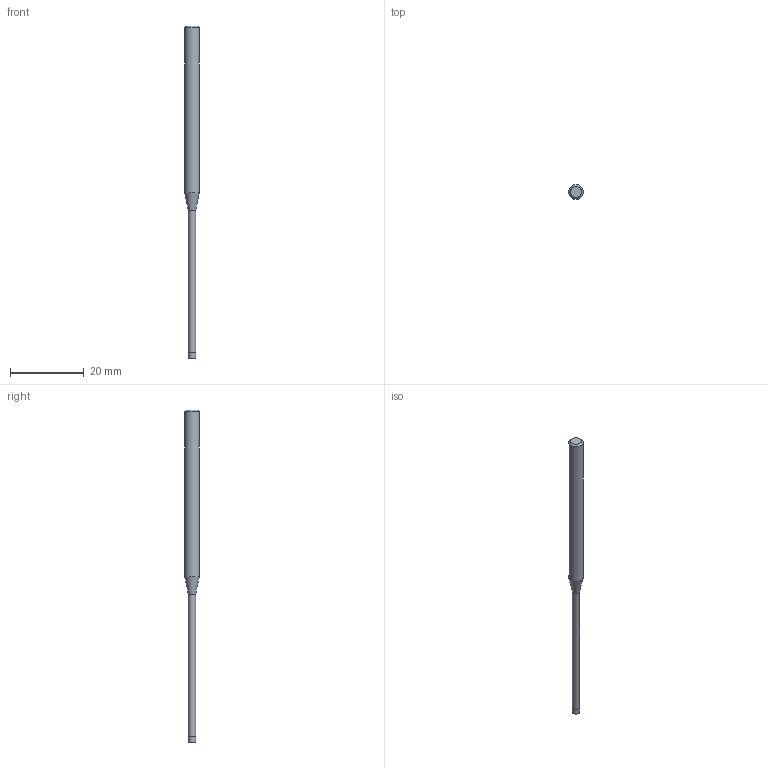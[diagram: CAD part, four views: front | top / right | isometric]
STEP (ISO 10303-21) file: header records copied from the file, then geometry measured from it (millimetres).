
FILE_DESCRIPTION((''),'2;1');
FILE_NAME('C:\Users\nsx150\AppData\Local\Temp\Mastercam 2021\RJ5U8K7RMU\TEMP.step','2021-04-21T16:42:24',(''),(''),'STEP Write','Mastercam 2021 ... CNC Software, Inc.','');
FILE_SCHEMA(('AUTOMOTIVE_DESIGN'));
Length unit declared in the file: millimetre
Products named in the file (1): None
Bounding box: 4 x 4 x 90 mm (x, y, z)
Volume: 719.4 mm3; surface area: 875.5 mm2
Topology: 2 solids, 2 shells, 9 faces, 12 edges, 7 vertices
Faces by surface type: plane 4, cylinder 3, cone 2
Full cylindrical faces by diameter (mm): 1.94 x1, 2 x1, 4 x1
Entity records: 211 total; most frequent: DIRECTION 36, CARTESIAN_POINT 25, AXIS2_PLACEMENT_3D 18, ORIENTED_EDGE 14, EDGE_LOOP 14, STYLED_ITEM 12, ADVANCED_FACE 9, FACE_BOUND 8
